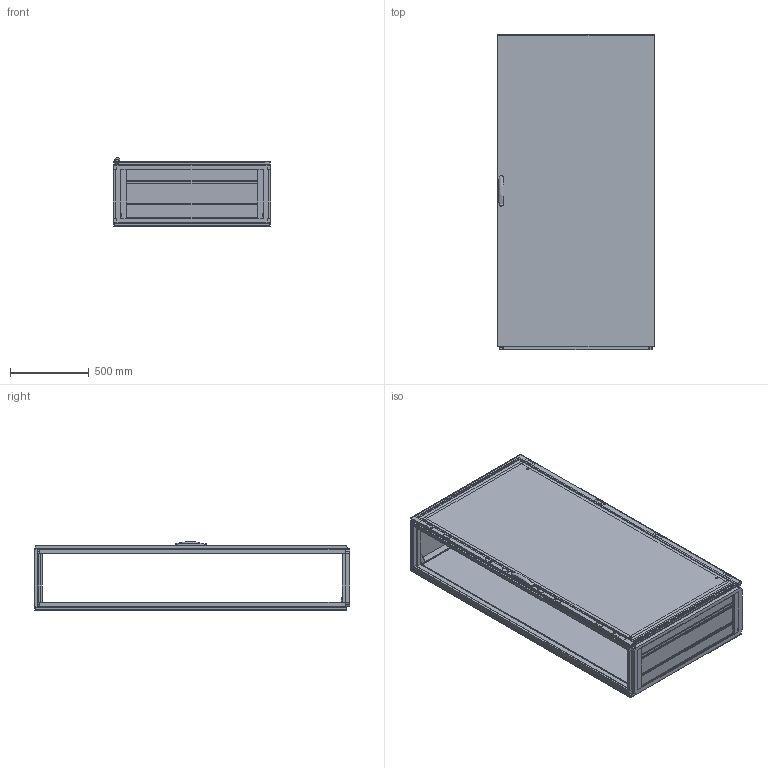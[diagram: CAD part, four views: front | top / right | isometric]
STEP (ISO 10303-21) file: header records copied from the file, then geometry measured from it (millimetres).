
FILE_DESCRIPTION(/* description */ ('STEP AP203'),/* implementation_level */ '2;1');
FILE_NAME(/* name */ 'MCS20104R5(0R)',/* time_stamp */ '2024-03-06T10:07:10+01:00',/* author */ ('License CC BY-ND 4.0'),/* organization */ ('CADENAS'),/* preprocessor_version */ 'ST-DEVELOPER v19.3',/* originating_system */ 'PARTsolutions',/* authorisation */ ' ');
FILE_SCHEMA (('CONFIG_CONTROL_DESIGN'));
Length unit declared in the file: millimetre
Products named in the file (19): MCS20104R5(0R); MCS20104R5_Frame; CRPK10(0)_Rear Panel Mounting Kit; CRP2010R5(0)_Rear Panel; CRPK10(0)_Rear Panel Bracket; DNMK01(0)_Rod catches; DNMK01(0)_Hinge; DN2010R5(0)_Plain door; LSSDXXXX(0)_Lock; LSSD2000(0)_Espagnolette Top; LSSD2000(0)_Espagnolette Bottom; CCR104R5(0)_Roof plate; MPA06(0)_Mounting Plate Brackets 1; MP2010(0)_P1; MPA06(0)_Mounting Plate Brackets 2; MPA06(0)_Mounting Plate Brackets 3; MPA06(0)_Mounting Plate Brackets 4; CBP100(0)_Bottom Plate 1; CBP100(0)_Bottom Plate 2
Assembly tree (33 placements, depth 2):
  MCS20104R5(0R)
    MCS20104R5_Frame
    CRPK10(0)_Rear Panel Mounting Kit  x8
    CRP2010R5(0)_Rear Panel
    CRPK10(0)_Rear Panel Bracket  x2
    DNMK01(0)_Rod catches  x4
    DNMK01(0)_Hinge  x4
    DN2010R5(0)_Plain door
    LSSDXXXX(0)_Lock
    LSSD2000(0)_Espagnolette Top
    LSSD2000(0)_Espagnolette Bottom
    CCR104R5(0)_Roof plate
    MPA06(0)_Mounting Plate Brackets 1
    MP2010(0)_P1
    MPA06(0)_Mounting Plate Brackets 2
    MPA06(0)_Mounting Plate Brackets 3
    MPA06(0)_Mounting Plate Brackets 4
    CBP100(0)_Bottom Plate 1  x2
    CBP100(0)_Bottom Plate 2
Bounding box: 999 x 2006 x 434.9 mm (x, y, z)
Volume: 33466016 mm3; surface area: 16723219.4 mm2
Topology: 33 solids, 33 shells, 1495 faces, 3965 edges, 2615 vertices
Faces by surface type: plane 1304, cylinder 128, cone 62, torus 1
Full cylindrical faces by diameter (mm): 2.55 x2, 5 x22, 5.2 x2, 6 x6, 7 x6, 7.4 x4, 8 x20, 9 x2, 10 x12, 13 x2, 14 x4
Entity records: 34918 total; most frequent: CARTESIAN_POINT 6067, ORIENTED_EDGE 5706, DIRECTION 5402, EDGE_CURVE 2853, LINE 2554, VECTOR 2554, VERTEX_POINT 1939, AXIS2_PLACEMENT_3D 1424
